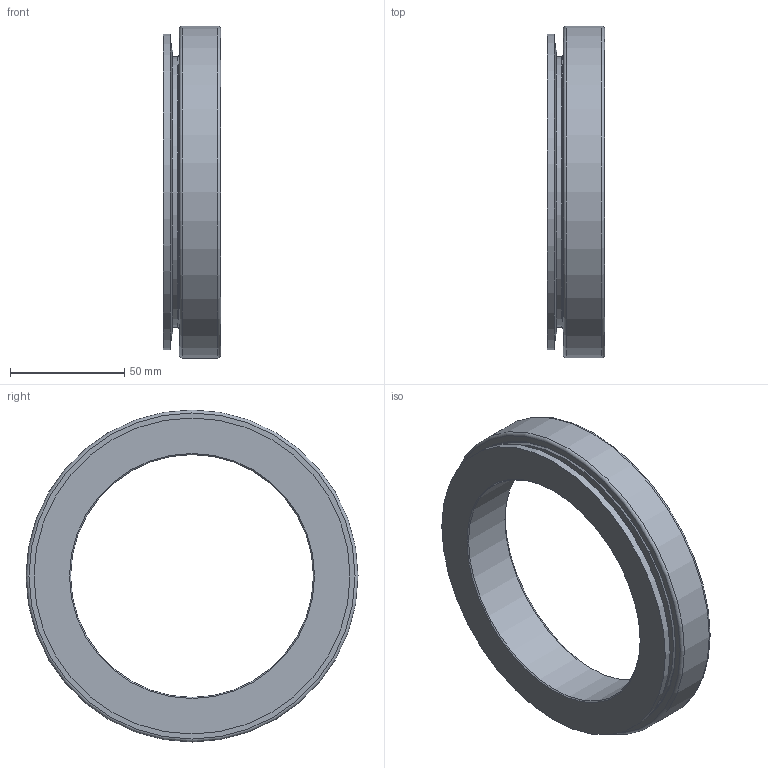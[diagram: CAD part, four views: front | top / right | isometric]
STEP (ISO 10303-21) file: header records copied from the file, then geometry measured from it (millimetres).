
FILE_DESCRIPTION(/* description */ (''),/* implementation_level */ '2;1');
FILE_NAME(/* name */ 'D:\moje\parametrické\plc\PLC 08-13\PLC 08-13.stp',/* time_stamp */ '2016-09-07T12:24:28+02:00',/* author */ ('OUBALASKO'),/* organization */ (''),/* preprocessor_version */ 'ST-DEVELOPER v15.6',/* originating_system */ 'Autodesk Inventor 2015',/* authorisation */ '');
FILE_SCHEMA (('AUTOMOTIVE_DESIGN { 1 0 10303 214 3 1 1 }'));
Length unit declared in the file: millimetre
Products named in the file (18): PLC 08-13-02; PLC 08-13-01; PLC 08-13-ball; PLC 08-13-ball_1; PLC 08-13-ball_2; PLC 08-13-ball_3; PLC 08-13-ball_4; PLC 08-13-ball_5; PLC 08-13-ball_6; PLC 08-13-ball_7; PLC 08-13-ball_8; PLC 08-13-ball_9; PLC 08-13-ball_10; PLC 08-13-ball_11; PLC 08-13-cage; PLC 08-13-seal; PLC 08-13-seal_1; PLC 08-13
Assembly tree (25 placements, depth 2):
  PLC 08-13
    PLC 08-13-02
    PLC 08-13-01
    PLC 08-13-ball
    PLC 08-13-ball_1
    PLC 08-13-ball_2
    PLC 08-13-ball_3
    PLC 08-13-ball_4
    PLC 08-13-ball_5
    PLC 08-13-ball_6
    PLC 08-13-ball_7
    PLC 08-13-ball_8
    PLC 08-13-ball_9
    PLC 08-13-ball_10
    PLC 08-13-ball_11  x9
    PLC 08-13-cage
    PLC 08-13-seal
    PLC 08-13-seal_1
Bounding box: 25 x 145 x 145 mm (x, y, z)
Volume: 130692 mm3; surface area: 86794.4 mm2
Topology: 25 solids, 25 shells, 377 faces, 1098 edges, 717 vertices
Faces by surface type: plane 116, sphere 80, cone 63, cylinder 59, bspline 40, torus 19
Full cylindrical faces by diameter (mm): 106 x1, 118 x1, 118.85 x2, 121.2 x1, 124 x1, 130.713 x1, 132.8 x4, 136.3 x2, 137 x2, 137.3 x2, 138 x1, 145 x1
Entity records: 14651 total; most frequent: CARTESIAN_POINT 5590, ORIENTED_EDGE 1854, DIRECTION 1798, EDGE_CURVE 927, AXIS2_PLACEMENT_3D 899, VERTEX_POINT 659, CIRCLE 487, EDGE_LOOP 446
